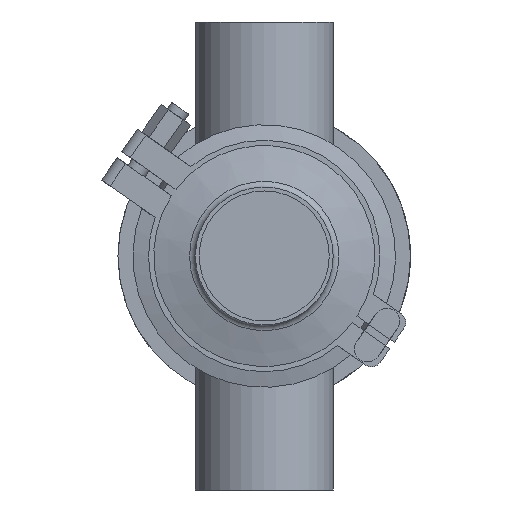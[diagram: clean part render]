
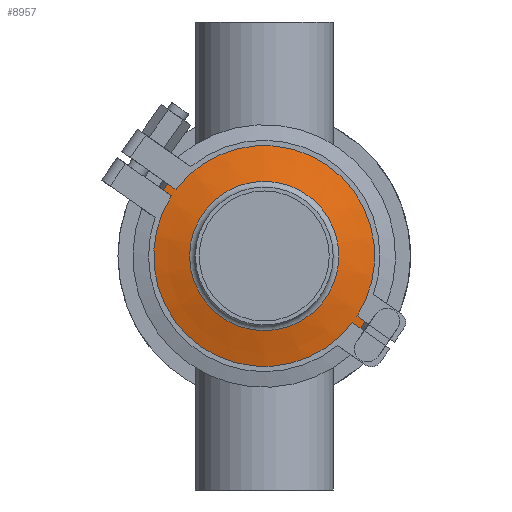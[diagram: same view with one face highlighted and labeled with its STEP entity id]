
A CAD part, front view. The second image highlights one B-rep face of the part: STEP entity #8957.
In plain terms, the highlighted conical face has half-angle 75 degrees and reference radius 46.5 mm.
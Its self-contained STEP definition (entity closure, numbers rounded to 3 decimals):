
#212 = EDGE_CURVE ( 'NONE', #7151, #7151, #8087, .T. ) ;
#1140 = DIRECTION ( 'NONE',  ( 0., 1., 0. ) ) ;
#2481 = CARTESIAN_POINT ( 'NONE',  ( 0., 5.5, 0. ) ) ;
#2937 = CIRCLE ( 'NONE', #17330, 46.5 ) ;
#3556 = AXIS2_PLACEMENT_3D ( 'NONE', #10283, #7255, #13536 ) ;
#4094 = CARTESIAN_POINT ( 'NONE',  ( 0., 0.737, 0. ) ) ;
#4385 = AXIS2_PLACEMENT_3D ( 'NONE', #4094, #17197, #16990 ) ;
#5552 = CARTESIAN_POINT ( 'NONE',  ( 0., 0.737, 28.724 ) ) ;
#7151 = VERTEX_POINT ( 'NONE', #5552 ) ;
#7255 = DIRECTION ( 'NONE',  ( 0., 1., 0. ) ) ;
#7351 = CARTESIAN_POINT ( 'NONE',  ( 0., 5.5, 46.5 ) ) ;
#7507 = ORIENTED_EDGE ( 'NONE', *, *, #212, .T. ) ;
#8087 = CIRCLE ( 'NONE', #4385, 28.724 ) ;
#8957 = ADVANCED_FACE ( 'NONE', ( #15202, #12074 ), #19551, .T. ) ;
#9197 = DIRECTION ( 'NONE',  ( 0., 0., 1. ) ) ;
#9334 = ORIENTED_EDGE ( 'NONE', *, *, #14153, .F. ) ;
#10283 = CARTESIAN_POINT ( 'NONE',  ( 0., 5.5, 0. ) ) ;
#12074 = FACE_OUTER_BOUND ( 'NONE', #17620, .T. ) ;
#13536 = DIRECTION ( 'NONE',  ( 0., 0., 1. ) ) ;
#14153 = EDGE_CURVE ( 'NONE', #15306, #15306, #2937, .T. ) ;
#15202 = FACE_BOUND ( 'NONE', #19391, .T. ) ;
#15306 = VERTEX_POINT ( 'NONE', #7351 ) ;
#16990 = DIRECTION ( 'NONE',  ( 0., 0., 1. ) ) ;
#17197 = DIRECTION ( 'NONE',  ( 0., 1., 0. ) ) ;
#17330 = AXIS2_PLACEMENT_3D ( 'NONE', #2481, #1140, #9197 ) ;
#17620 = EDGE_LOOP ( 'NONE', ( #9334 ) ) ;
#19391 = EDGE_LOOP ( 'NONE', ( #7507 ) ) ;
#19551 = CONICAL_SURFACE ( 'NONE', #3556, 46.5, 1.309 ) ;
